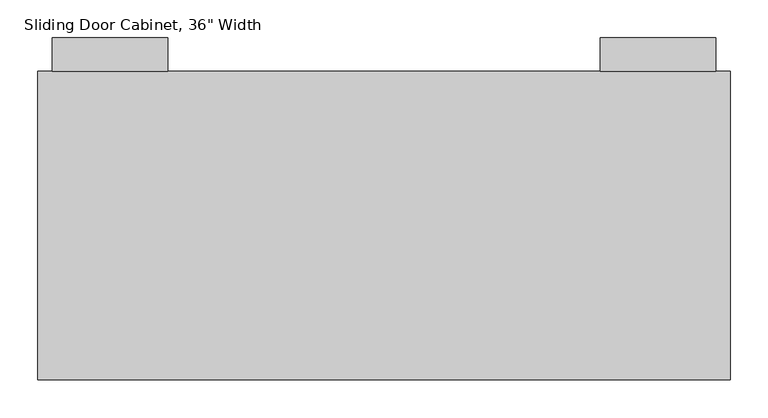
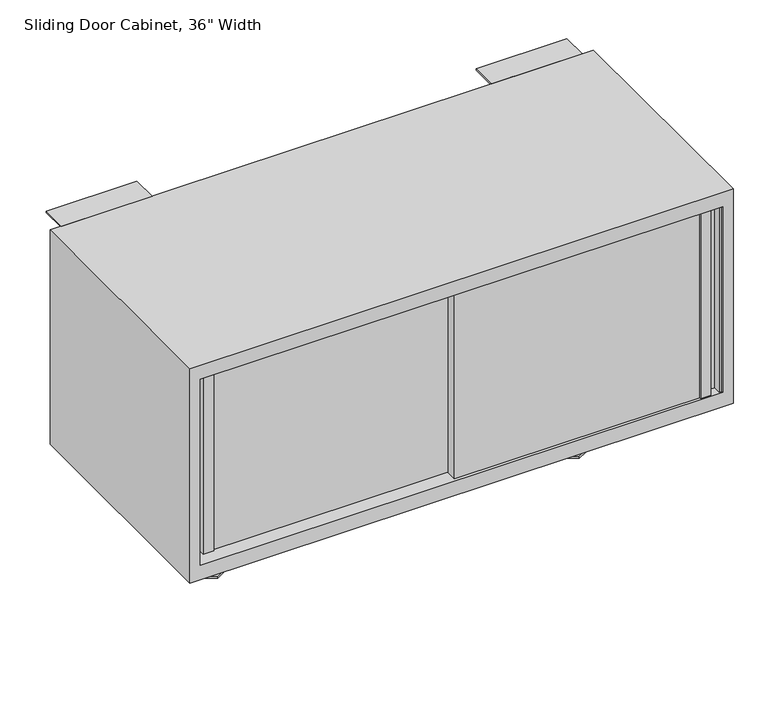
"""IFC4 building model written with IfcOpenShell, lengths in millimetres: furniture geometry."""

from ifc_helpers import new_model, si_unit, point, frame, frame_2d, origin, origin_with_axes, place, context, project, spatial, polyline, circle_curve, trimmed, segment, composite_curve, outline, extrude, faceted_brep, source, transform, mapped, element, save


def furniture_9e8aaa73(model_context):
    return source(origin(), model_context, "Body", "SolidModel", [
        extrude(outline(composite_curve([segment(trimmed(circle_curve(frame_2d((-609.6, -176.6800781)), 3.9782717), [point((-609.6, -172.7018065))], [point((-609.6, -180.6583498))], False, "CARTESIAN"), True, "CONTINUOUS"), segment(trimmed(circle_curve(frame_2d((-609.6, -176.6800781)), 3.9782717), [point((-609.6, -180.6583498))], [point((-609.6, -172.7018065))], False, "CARTESIAN"), True, "CONTINUOUS")], self_intersect=False)), frame((0.0, 0.0, 3.794115), z_axis=(0.0, 0.0, 1.0), x_axis=(1.0, 0.0, 0.0)), (0.0, 0.0, 1.0), 26.230875),
        extrude(outline(composite_curve([segment(trimmed(circle_curve(frame_2d((-1.524, -176.6800781)), 3.9782717), [point((-1.524, -172.7018065))], [point((-1.524, -180.6583498))], False, "CARTESIAN"), True, "CONTINUOUS"), segment(trimmed(circle_curve(frame_2d((-1.524, -176.6800781)), 3.9782717), [point((-1.524, -180.6583498))], [point((-1.524, -172.7018065))], False, "CARTESIAN"), True, "CONTINUOUS")], self_intersect=False)), frame((0.0, 0.0, 3.794115), z_axis=(0.0, 0.0, 1.0), x_axis=(1.0, 0.0, 0.0)), (0.0, 0.0, 1.0), 26.230875),
        extrude(outline(polyline([(-18.9980857, -166.5914101), (-1.524, -156.502742), (15.9500857, -166.5914101), (15.9500857, -186.7687462), (-1.524, -196.8574143), (-18.9980857, -186.7687462), (-18.9980857, -166.5914101)])), origin_with_axes(), (0.0, 0.0, 1.0), 3.794115),
        extrude(outline(polyline([(-627.0740857, -166.5914101), (-609.6, -156.502742), (-592.1259143, -166.5914101), (-592.1259143, -186.7687462), (-609.6, -196.8574143), (-627.0740857, -186.7687462), (-627.0740857, -166.5914101)])), origin_with_axes(), (0.0, 0.0, 1.0), 3.794115),
        extrude(outline(polyline([(-708.7275816, -354.8480781), (-708.7275816, -357.3480781), (-726.3275816, -357.3480781), (-726.3275816, -341.3098281), (-740.0275816, -341.3098281), (-740.0275816, -357.3480781), (-743.6275816, -357.3480781), (-743.6275816, -339.3098281), (-723.8275816, -339.3098281), (-723.8275816, -354.8480781), (-708.7275816, -354.8480781)])), frame((0.0, 0.0, 180.975), z_axis=(0.0, 0.0, 1.0), x_axis=(1.0, 0.0, 0.0)), (0.0, 0.0, 1.0), 330.2),
        extrude(outline(polyline([(97.6275816, -374.8080781), (112.7275816, -374.8080781), (112.7275816, -361.8080781), (132.5275816, -361.8080781), (132.5275816, -377.3080781), (128.9275816, -377.3080781), (128.9275816, -363.8080781), (115.2275816, -363.8080781), (115.2275816, -377.3080781), (97.6275816, -377.3080781), (97.6275816, -374.8080781)])), frame((0.0, 0.0, 180.975), z_axis=(0.0, 0.0, 1.0), x_axis=(1.0, 0.0, 0.0)), (0.0, 0.0, 1.0), 330.2),
        extrude(outline(polyline([(-314.4524184, -357.0080781), (112.7275816, -357.0080781), (112.7275816, -374.8080781), (-314.4524184, -374.8080781), (-314.4524184, -357.0080781)])), frame((0.0, 0.0, 180.975), z_axis=(0.0, 0.0, 1.0), x_axis=(1.0, 0.0, 0.0)), (0.0, 0.0, 1.0), 330.2),
        extrude(outline(polyline([(-723.8275816, -337.0480781), (-296.672, -337.0480781), (-296.672, -354.8480781), (-723.8275816, -354.8480781), (-723.8275816, -337.0480781)])), frame((0.0, 0.0, 180.975), z_axis=(0.0, 0.0, 1.0), x_axis=(1.0, 0.0, 0.0)), (0.0, 0.0, 1.0), 330.2),
        extrude(outline(polyline([(-11.5316, -157.6300781), (8.4836, -157.6300781), (8.4836, -195.7300781), (-11.5316, -195.7300781), (-11.5316, -157.6300781)])), frame((0.0, 0.0, 30.02499), z_axis=(0.0, 0.0, 1.0), x_axis=(1.0, 0.0, 0.0)), (0.0, 0.0, 1.0), 125.55001),
        extrude(outline(polyline([(-619.6, -157.6300781), (-599.6, -157.6300781), (-599.6, -195.7300781), (-619.6, -195.7300781), (-619.6, -157.6300781)])), frame((0.0, 0.0, 30.02499), z_axis=(0.0, 0.0, 1.0), x_axis=(1.0, 0.0, 0.0)), (0.0, 0.0, 1.0), 125.55001),
        extrude(outline(polyline([(26.5199219, 508.77499), (26.5199219, 536.575), (70.8140505, 536.575), (70.8140505, 533.80049), (29.2199219, 533.80049), (29.2199219, 508.77499), (26.5199219, 508.77499)])), frame((-20.6, 0.0, 0.0), z_axis=(1.0, 0.0, 0.0), x_axis=(0.0, 1.0, 0.0)), (0.0, 0.0, 1.0), 152.4),
        extrude(outline(polyline([(26.5199219, 536.575), (70.8140505, 536.575), (70.8140505, 533.80049), (29.2199219, 533.80049), (29.2199219, 508.77499), (26.5199219, 508.77499), (26.5199219, 536.575)])), frame((-742.9, 0.0, 0.0), z_axis=(1.0, 0.0, 0.0), x_axis=(0.0, 1.0, 0.0)), (0.0, 0.0, 1.0), 152.4),
        faceted_brep([(150.876, -379.8800781, 536.575), (150.876, 26.5199219, 536.575), (-762.0, 26.5199219, 536.575), (-762.0, -379.8800781, 536.575), (150.876, 26.5199219, 155.575), (150.876, -379.8800781, 155.575), (-762.0, -379.8800781, 155.575), (-762.0, 26.5199219, 155.575), (133.096, -379.8800781, 180.975), (133.096, -379.8800781, 511.175), (133.096, 1.1199219, 511.175), (133.096, 1.1199219, 180.975), (-744.22, -379.8800781, 180.975), (-744.22, -379.8800781, 511.175), (-744.22, 1.1199219, 180.975), (-744.22, 1.1199219, 511.175)], [[[0, 1, 2, 3]], [[4, 5, 6, 7]], [[8, 9, 10, 11]], [[0, 3, 6, 5], [8, 12, 13, 9]], [[1, 0, 5, 4]], [[2, 1, 4, 7]], [[6, 3, 2, 7]], [[13, 12, 14, 15]], [[12, 8, 11, 14]], [[14, 11, 10, 15]], [[9, 13, 15, 10]]]),
    ])


if __name__ == "__main__":
    model = new_model("IFC4")
    model_context = context("Model", 3, world=origin())
    ifc_project = project(units=[si_unit("LENGTHUNIT", "METRE", prefix="MILLI")], contexts=[model_context])
    site = spatial("IfcSite", under=ifc_project)
    building = spatial("IfcBuilding", under=site)
    placement = place(None, origin())
    furniture_shape = furniture_9e8aaa73(model_context)
    element("IfcFurniture", 1, ObjectType="Furniture-Cabinet-Teknion-Altos_Landscape-R2015 : Sliding Door Cabinet, 36\" Width", at=placement, inside=building, context=model_context, shape_type="MappedRepresentation", body=[
        mapped(furniture_shape, transform((0.0, 0.0, 0.0), x_axis=(1.0, 0.0, 0.0), y_axis=(0.0, 1.0, 0.0), z_axis=(0.0, 0.0, 1.0))),
    ])
    save(model, "model.ifc")
